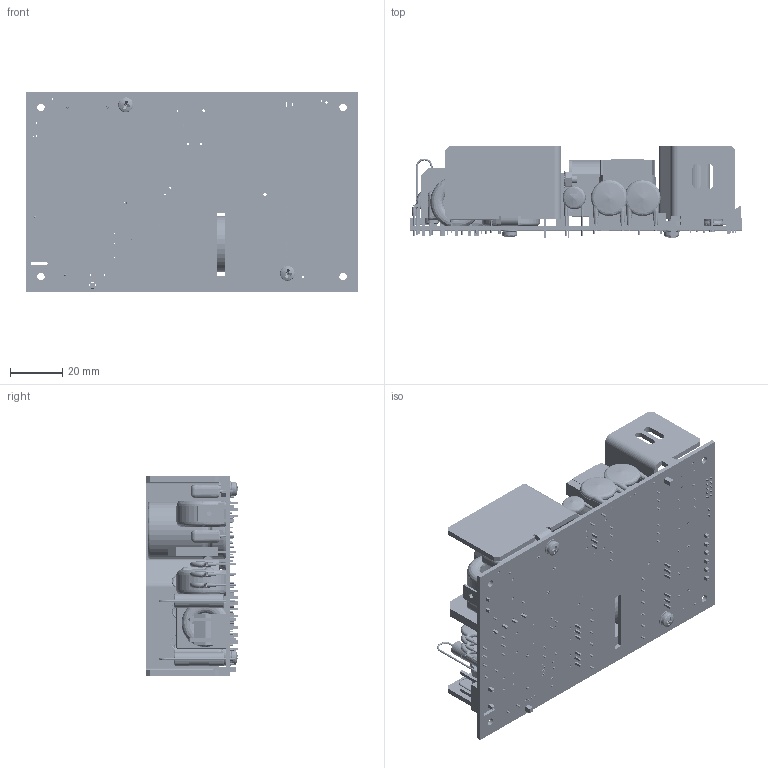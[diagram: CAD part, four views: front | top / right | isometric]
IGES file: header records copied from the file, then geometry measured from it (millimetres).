
Start section: SolidWorks IGES file using analytic representation for surfaces
Global section: file name: C:\PROJECTS\GCS150 solidworks\GCS150 SINGLE OUTPUT.IGS; native system: SolidWorks 2011; preprocessor: SolidWorks 2011; author: KEVYOU; date: 121009.082440; units: inch
Bounding box: 127 x 34.92 x 76.21 mm (x, y, z)
Surface area: 81234.5 mm2 (no closed solid volume)
Topology: 0 solids, 0 shells, 3247 faces, 32080 edges, 32004 vertices
Faces by surface type: bspline 2021, revolution 1226
